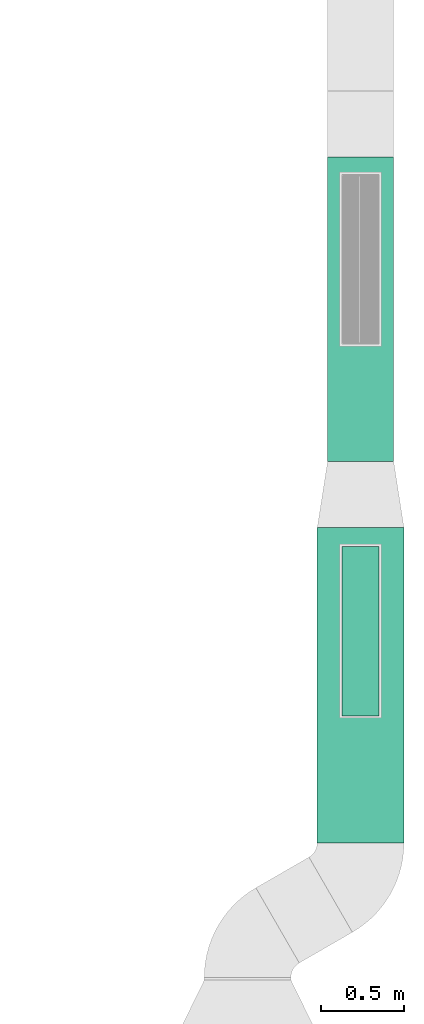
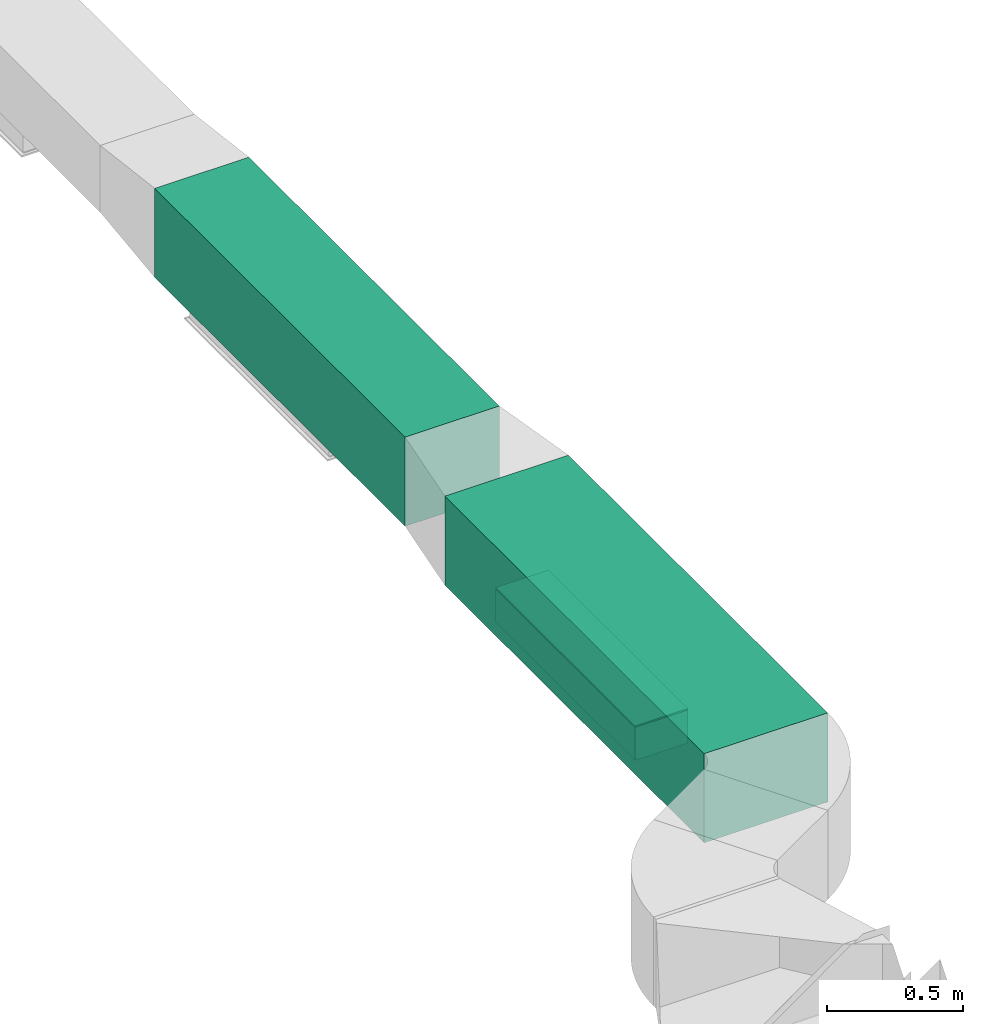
# One storey, part 17 of 60: 3 flow segments, 1 flow fitting.
"""IFC2X3 building model written with IfcOpenShell, lengths in millimetres."""

from ifc_helpers import new_model, entity, si_unit, converted_unit, derived_unit, direction, frame, frame_2d, origin, origin_2d_with_axis, place, context, subcontext, project, spatial, polyline, rectangle, outline, extrude, source, transform, mapped, material, type_object, type_shapes, element, save


model = new_model("IFC2X3")

# Units and contexts
model_context = context("Model", 3, precision=0.01, world=origin(), true_north=direction((6.123233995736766e-17, 1.0)))
body_context = subcontext(model_context, "Body", "Model", "MODEL_VIEW")
ifc_project = project(units=[si_unit("LENGTHUNIT", "METRE", prefix="MILLI"), converted_unit("PLANEANGLEUNIT", "DEGREE", entity("IfcPlaneAngleMeasure", 0.017453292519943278), si_unit("PLANEANGLEUNIT", "RADIAN"), dimensions=[0, 0, 0, 0, 0, 0, 0]), si_unit("AREAUNIT", "SQUARE_METRE"), derived_unit("THERMALTRANSMITTANCEUNIT", [(si_unit("MASSUNIT", "GRAM", prefix="KILO"), 1), (si_unit("THERMODYNAMICTEMPERATUREUNIT", "KELVIN"), -1), (si_unit("TIMEUNIT", "SECOND"), -3)])], contexts=[model_context])

# Site, building, storey
site_placement = place(None, origin())
site = spatial("IfcSite", under=ifc_project, at=site_placement, Name="Default", CompositionType="ELEMENT")
building_placement = place(site_placement, origin())
building = spatial("IfcBuilding", under=site, at=building_placement, Name="Praça Pedro II, 1301 - Centro (Sul), Teresina - PI, 64001-100", CompositionType="ELEMENT")
storey_placement = place(building_placement, frame((0.0, 0.0, 6040.0)))
storey = spatial("IfcBuildingStorey", under=building, at=storey_placement, Name="2PAV", CompositionType="ELEMENT", Elevation=6040.0)

# Flow segments
duct_segment_type = type_object("IfcDuctSegmentType", Name="Duto retangular:Raios cotovelos / torneiras", PredefinedType="NOTDEFINED")
flow_segment_1_placement = place(storey_placement, origin())
element("IfcFlowSegment", 1, at=flow_segment_1_placement, inside=storey, type_object=duct_segment_type, Name="Duto retangular:Raios cotovelos / torneiras", ObjectType="Duto retangular:Raios cotovelos / torneiras", context=body_context, shape_type="SweptSolid", body=[
    extrude(rectangle(XDim=1842.108629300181, YDim=400.0000000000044, at=frame_2d((4.320099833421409e-12, 0.0), x_axis=(1.0, 0.0))), frame((39577.44502231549, -57123.414422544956, 3250.0), z_axis=(0.0, 0.0, 1.0), x_axis=(0.0, -1.0, 0.0)), (0.0, 0.0, 1.0), 400.0),
])
flow_segment_2_placement = place(storey_placement, origin())
element("IfcFlowSegment", 2, at=flow_segment_2_placement, inside=storey, type_object=duct_segment_type, Name="Duto retangular:Raios cotovelos / torneiras", ObjectType="Duto retangular:Raios cotovelos / torneiras", context=body_context, shape_type="SweptSolid", body=[
    extrude(rectangle(XDim=1907.6354826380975, YDim=525.0000000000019, at=frame_2d((-4.376943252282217e-12, 0.0), x_axis=(1.0, 0.0))), frame((39577.44502231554, -59398.28647851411, 3250.0), z_axis=(0.0, 0.0, 1.0), x_axis=(0.0, -1.0, 0.0)), (0.0, 0.0, 1.0), 400.0),
])
flow_segment_3_placement = place(storey_placement, origin())
element("IfcFlowSegment", 3, at=flow_segment_3_placement, inside=storey, type_object=duct_segment_type, Name="Duto retangular:Raios cotovelos / torneiras", ObjectType="Duto retangular:Raios cotovelos / torneiras", context=body_context, shape_type="SweptSolid", body=[
    extrude(rectangle(XDim=225.00000000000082, YDim=1024.9999999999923, at=origin_2d_with_axis()), frame((39577.444918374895, -59070.52253334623, 3100.0)), (0.0, 0.0, 1.0), 149.00000000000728),
])

# Flow fitting
ifc_material = material(Name="<Unnamed>")
duct_fitting_type = type_object("IfcDuctFittingType", Name="M_Rectangular Tap - Beveled:Standard", PredefinedType="NOTDEFINED", material=ifc_material)
shared_shape = source(origin(), body_context, "Body", "SweptSolid", [
    extrude(outline(polyline([(-3.0383999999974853, -615.4000000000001), (4.057600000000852, -615.4000000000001), (4.057600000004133, 410.6000000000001), (-2.0383999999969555, 410.6000000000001), (-3.0383999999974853, 409.59999999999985), (-3.0383999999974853, -615.4000000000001)])), frame((-2.038399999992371, -102.90000000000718, -112.49999999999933), z_axis=(0.0, 0.0, 1.0), x_axis=(-1.0, 0.0, 0.0)), (0.0, 0.0, 1.0), 224.99999999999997),
])
type_shapes(duct_fitting_type, [shared_shape])
flow_fitting_placement = place(storey_placement, frame((39577.444918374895, -59070.52253334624, 3250.0), z_axis=(1.0, 0.0, 0.0), x_axis=(0.0, 0.0, -1.0)))
element("IfcFlowFitting", 4, at=flow_fitting_placement, inside=storey, type_object=duct_fitting_type, material=ifc_material, Name="M_Rectangular Tap - Beveled:Standard", ObjectType="M_Rectangular Tap - Beveled:Standard", context=body_context, shape_type="MappedRepresentation", body=[
    mapped(shared_shape, transform((0.0, 0.0, 0.0), scale=1.0)),
])

save(model, "model.ifc")
